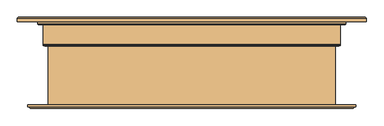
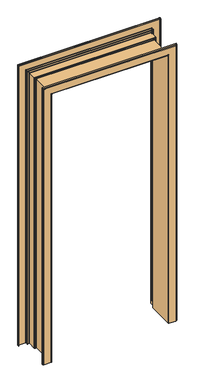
"""IFC4 building model written with IfcOpenShell, lengths in millimetres: door geometry."""

from ifc_helpers import new_model, si_unit, frame, origin, place, context, project, spatial, polyline, circle_curve, ellipse_curve, source, transform, mapped, element, save
from ifc_brep_helpers import plane_surface, cylinder_surface, revolved_surface, advanced_brep


def door_1babe00d(model_context):
    return source(origin(), model_context, "Body", "AdvancedBrep", [
        advanced_brep(
        [(-500.8, 136.0, 0.0), (-502.0, 134.8, 0.0), (-502.0, 125.0, 0.0), (-504.0, 125.0, 0.0), (-504.0, 134.8, 0.0), (-500.8, 138.0, 0.0), (-447.2, 138.0, 0.0), (-444.0, 134.8, 0.0), (-444.0, 120.2, 0.0), (-442.8, 119.0, 0.0), (-431.2, 119.0, 0.0), (-428.0, 115.8, 0.0), (-428.0, 58.5435371, 0.0), (-427.230303, 57.5704182, 0.0), (-421.4901646, 57.1837299, 0.0), (-418.7138764, 58.5145653, 0.0), (-418.4, 59.2839869, 0.0), (-418.4, 65.990098, 0.0), (-417.5333333, 68.1996732, 0.0), (-413.8666667, 68.1996732, 0.0), (-413.0, 65.990098, 0.0), (-413.0, -121.8, 0.0), (-416.2, -125.0, 0.0), (-465.8, -125.0, 0.0), (-469.0, -121.8, 0.0), (-469.0, -115.0, 0.0), (-467.0, -115.0, 0.0), (-467.0, -121.8, 0.0), (-465.8, -123.0, 0.0), (-416.2, -123.0, 0.0), (-415.0, -121.8, 0.0), (-415.0, 65.990098, 0.0), (-415.3333333, 66.8399346, 0.0), (-416.0666667, 66.8399346, 0.0), (-416.4, 65.990098, 0.0), (-416.4, 59.2435371, 0.0), (-417.2315687, 57.170398, 0.0), (-421.2947548, 55.1932991, 0.0), (-427.6909091, 55.6241802, 0.0), (-430.0, 58.5435371, 0.0), (-430.0, 115.8, 0.0), (-431.2, 117.0, 0.0), (-442.8, 117.0, 0.0), (-446.0, 120.2, 0.0), (-446.0, 134.8, 0.0), (-447.2, 136.0, 0.0), (-500.8, 136.0, 2087.8), (-502.0, 134.8, 2089.0), (-502.0, 125.0, 2089.0), (502.0, 125.0, 2089.0), (502.0, 125.0, 0.0), (504.0, 125.0, 0.0), (504.0, 125.0, 2091.0), (-504.0, 125.0, 2091.0), (-504.0, 134.8, 2091.0), (-500.8, 138.0, 2087.8), (500.8, 138.0, 2087.8), (500.8, 138.0, 0.0), (447.2, 138.0, 0.0), (447.2, 138.0, 2034.2), (-447.2, 138.0, 2034.2), (-444.0, 134.8, 2031.0), (-444.0, 120.2, 2031.0), (-442.8, 119.0, 2029.8), (442.8, 119.0, 2029.8), (442.8, 119.0, 0.0), (431.2, 119.0, 0.0), (431.2, 119.0, 2018.2), (-431.2, 119.0, 2018.2), (-428.0, 115.8, 2015.0), (-428.0, 58.5435371, 2015.0), (-427.230303, 57.5704182, 2014.230303), (-421.4901646, 57.1837299, 2008.4901646), (-418.7138764, 58.5145653, 2005.7138764), (-418.4, 59.2839869, 2005.4), (-418.4, 65.990098, 2005.4), (-417.5333333, 68.1996732, 2004.5333333), (-413.8666667, 68.1996732, 2000.8666667), (-413.0, 65.990098, 2000.0), (-413.0, -121.8, 2000.0), (-416.2, -125.0, 2003.2), (416.2, -125.0, 2003.2), (416.2, -125.0, 0.0), (465.8, -125.0, 0.0), (465.8, -125.0, 2052.8), (-465.8, -125.0, 2052.8), (-469.0, -121.8, 2056.0), (-469.0, -115.0, 2056.0), (469.0, -115.0, 2056.0), (469.0, -115.0, 0.0), (467.0, -115.0, 0.0), (467.0, -115.0, 2054.0), (-467.0, -115.0, 2054.0), (-467.0, -121.8, 2054.0), (-465.8, -123.0, 2052.8), (465.8, -123.0, 2052.8), (465.8, -123.0, 0.0), (416.2, -123.0, 0.0), (416.2, -123.0, 2003.2), (-416.2, -123.0, 2003.2), (-415.0, -121.8, 2002.0), (-415.0, 65.990098, 2002.0), (-415.3333333, 66.8399346, 2002.3333333), (-416.0666667, 66.8399346, 2003.0666667), (-416.4, 65.990098, 2003.4), (-416.4, 59.2435371, 2003.4), (-417.2315687, 57.170398, 2004.2315687), (-421.2947548, 55.1932991, 2008.2947548), (-427.6909091, 55.6241802, 2014.6909091), (-430.0, 58.5435371, 2017.0), (-430.0, 115.8, 2017.0), (-431.2, 117.0, 2018.2), (431.2, 117.0, 2018.2), (431.2, 117.0, 0.0), (442.8, 117.0, 0.0), (442.8, 117.0, 2029.8), (-442.8, 117.0, 2029.8), (-446.0, 120.2, 2033.0), (-446.0, 134.8, 2033.0), (-447.2, 136.0, 2034.2), (447.2, 136.0, 2034.2), (447.2, 136.0, 0.0), (500.8, 136.0, 0.0), (500.8, 136.0, 2087.8), (504.0, 134.8, 2091.0), (504.0, 134.8, 0.0), (446.0, 134.8, 0.0), (446.0, 120.2, 0.0), (430.0, 115.8, 0.0), (430.0, 58.5435371, 0.0), (427.6909091, 55.6241802, 0.0), (421.2947548, 55.1932991, 0.0), (417.2315687, 57.170398, 0.0), (416.4, 59.2435371, 0.0), (416.4, 65.990098, 0.0), (416.0666667, 66.8399346, 0.0), (415.3333333, 66.8399346, 0.0), (415.0, 65.990098, 0.0), (415.0, -121.8, 0.0), (467.0, -121.8, 0.0), (469.0, -121.8, 0.0), (413.0, -121.8, 0.0), (413.0, 65.990098, 0.0), (413.8666667, 68.1996732, 0.0), (417.5333333, 68.1996732, 0.0), (418.4, 65.990098, 0.0), (418.4, 59.2839869, 0.0), (418.7138764, 58.5145653, 0.0), (421.4901646, 57.1837299, 0.0), (427.230303, 57.5704182, 0.0), (428.0, 58.5435371, 0.0), (428.0, 115.8, 0.0), (444.0, 120.2, 0.0), (444.0, 134.8, 0.0), (502.0, 134.8, 0.0), (444.0, 134.8, 2031.0), (446.0, 134.8, 2033.0), (502.0, 134.8, 2089.0), (413.0, -121.8, 2000.0), (469.0, -121.8, 2056.0), (467.0, -121.8, 2054.0), (444.0, 120.2, 2031.0), (428.0, 115.8, 2015.0), (430.0, 115.8, 2017.0), (446.0, 120.2, 2033.0), (415.0, -121.8, 2002.0), (430.0, 58.5435371, 2017.0), (427.6909091, 55.6241802, 2014.6909091), (421.2947548, 55.1932991, 2008.2947548), (417.2315687, 57.170398, 2004.2315687), (416.4, 59.2435371, 2003.4), (416.4, 65.990098, 2003.4), (416.0666667, 66.8399346, 2003.0666667), (415.3333333, 66.8399346, 2002.3333333), (415.0, 65.990098, 2002.0), (413.0, 65.990098, 2000.0), (413.8666667, 68.1996732, 2000.8666667), (417.5333333, 68.1996732, 2004.5333333), (418.4, 65.990098, 2005.4), (418.4, 59.2839869, 2005.4), (418.7138764, 58.5145653, 2005.7138764), (421.4901646, 57.1837299, 2008.4901646), (427.230303, 57.5704182, 2014.230303), (428.0, 58.5435371, 2015.0)],
        [
            (0, 1, circle_curve(frame((-500.8, 134.8, 0.0), z_axis=(0.0, 0.0, 1.0), x_axis=(-1.0, 0.0, 0.0)), 1.2)),
            (1, 2),
            (2, 3),
            (3, 4),
            (4, 5, circle_curve(frame((-500.8, 134.8, 0.0), z_axis=(0.0, 0.0, -1.0), x_axis=(-1.0, 0.0, 0.0)), 3.2)),
            (5, 6),
            (6, 7, circle_curve(frame((-447.2, 134.8, 0.0), z_axis=(0.0, 0.0, -1.0), x_axis=(-1.0, 0.0, 0.0)), 3.2)),
            (7, 8),
            (8, 9, circle_curve(frame((-442.8, 120.2, 0.0), z_axis=(0.0, 0.0, 1.0), x_axis=(-1.0, 0.0, 0.0)), 1.2)),
            (9, 10),
            (10, 11, circle_curve(frame((-431.2, 115.8, 0.0), z_axis=(0.0, 0.0, -1.0), x_axis=(-1.0, 0.0, 0.0)), 3.2)),
            (11, 12),
            (12, 13, circle_curve(frame((-427.0, 58.5435371, 0.0), z_axis=(0.0, 0.0, 1.0), x_axis=(-1.0, 0.0, 0.0)), 1.0)),
            (13, 14, circle_curve(frame((-423.2, 74.6, 0.0), z_axis=(0.0, 0.0, 1.0), x_axis=(-1.0, 0.0, 0.0)), 17.5)),
            (14, 15, circle_curve(frame((-421.9298365, 61.6621994, 0.0), z_axis=(0.0, 0.0, 1.0), x_axis=(-1.0, 0.0, 0.0)), 4.5)),
            (15, 16, circle_curve(frame((-419.5, 59.2839869, 0.0), z_axis=(0.0, 0.0, 1.0), x_axis=(-1.0, 0.0, 0.0)), 1.1)),
            (16, 17),
            (17, 18, circle_curve(frame((-415.15, 65.990098, 0.0), z_axis=(0.0, 0.0, -1.0), x_axis=(-1.0, 0.0, 0.0)), 3.25)),
            (18, 19, circle_curve(frame((-415.7, 66.5, 0.0), z_axis=(0.0, 0.0, -1.0), x_axis=(-1.0, 0.0, 0.0)), 2.5)),
            (19, 20, circle_curve(frame((-416.25, 65.990098, 0.0), z_axis=(0.0, 0.0, -1.0), x_axis=(-1.0, 0.0, 0.0)), 3.25)),
            (20, 21),
            (21, 22, circle_curve(frame((-416.2, -121.8, 0.0), z_axis=(0.0, 0.0, -1.0), x_axis=(-1.0, 0.0, 0.0)), 3.2)),
            (22, 23),
            (23, 24, circle_curve(frame((-465.8, -121.8, 0.0), z_axis=(0.0, 0.0, -1.0), x_axis=(-1.0, 0.0, 0.0)), 3.2)),
            (24, 25),
            (25, 26),
            (26, 27),
            (27, 28, circle_curve(frame((-465.8, -121.8, 0.0), z_axis=(0.0, 0.0, 1.0), x_axis=(-1.0, 0.0, 0.0)), 1.2)),
            (28, 29),
            (29, 30, circle_curve(frame((-416.2, -121.8, 0.0), z_axis=(0.0, 0.0, 1.0), x_axis=(-1.0, 0.0, 0.0)), 1.2)),
            (30, 31),
            (31, 32, circle_curve(frame((-416.25, 65.990098, 0.0), z_axis=(0.0, 0.0, 1.0), x_axis=(-1.0, 0.0, 0.0)), 1.25)),
            (32, 33, circle_curve(frame((-415.7, 66.5, 0.0), z_axis=(0.0, 0.0, 1.0), x_axis=(-1.0, 0.0, 0.0)), 0.5)),
            (33, 34, circle_curve(frame((-415.15, 65.990098, 0.0), z_axis=(0.0, 0.0, 1.0), x_axis=(-1.0, 0.0, 0.0)), 1.25)),
            (34, 35),
            (35, 36, circle_curve(frame((-419.4, 59.2435371, 0.0), z_axis=(0.0, 0.0, -1.0), x_axis=(-1.0, 0.0, 0.0)), 3.0)),
            (36, 37, circle_curve(frame((-421.9298365, 61.6621994, 0.0), z_axis=(0.0, 0.0, -1.0), x_axis=(-1.0, 0.0, 0.0)), 6.5)),
            (37, 38, circle_curve(frame((-423.2, 74.6, 0.0), z_axis=(0.0, 0.0, -1.0), x_axis=(-1.0, 0.0, 0.0)), 19.5)),
            (38, 39, circle_curve(frame((-427.0, 58.5435371, 0.0), z_axis=(0.0, 0.0, -1.0), x_axis=(-1.0, 0.0, 0.0)), 3.0)),
            (39, 40),
            (40, 41, circle_curve(frame((-431.2, 115.8, 0.0), z_axis=(0.0, 0.0, 1.0), x_axis=(-1.0, 0.0, 0.0)), 1.2)),
            (41, 42),
            (42, 43, circle_curve(frame((-442.8, 120.2, 0.0), z_axis=(0.0, 0.0, -1.0), x_axis=(-1.0, 0.0, 0.0)), 3.2)),
            (43, 44),
            (44, 45, circle_curve(frame((-447.2, 134.8, 0.0), z_axis=(0.0, 0.0, 1.0), x_axis=(-1.0, 0.0, 0.0)), 1.2)),
            (45, 0),
            (0, 46),
            (46, 47, ellipse_curve(frame((-500.8, 134.8, 2087.8), z_axis=(0.7071067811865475, 0.0, 0.7071067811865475), x_axis=(-0.7071067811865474, 0.0, 0.7071067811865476)), 1.6970563, 1.2)),
            (47, 1),
            (47, 48),
            (48, 2),
            (48, 49),
            (49, 50),
            (50, 51),
            (51, 52),
            (52, 53),
            (53, 3),
            (53, 54),
            (54, 4),
            (54, 55, ellipse_curve(frame((-500.8, 134.8, 2087.8), z_axis=(-0.7071067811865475, 0.0, -0.7071067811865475), x_axis=(0.7071067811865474, 0.0, -0.7071067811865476)), 4.5254834, 3.2)),
            (55, 5),
            (55, 56),
            (56, 57),
            (57, 58),
            (58, 59),
            (59, 60),
            (60, 6),
            (60, 61, ellipse_curve(frame((-447.2, 134.8, 2034.2), z_axis=(-0.7071067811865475, 0.0, -0.7071067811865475), x_axis=(0.7071067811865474, 0.0, -0.7071067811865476)), 4.5254834, 3.2)),
            (61, 7),
            (61, 62),
            (62, 8),
            (62, 63, ellipse_curve(frame((-442.8, 120.2, 2029.8), z_axis=(0.7071067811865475, 0.0, 0.7071067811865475), x_axis=(-0.7071067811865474, 0.0, 0.7071067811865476)), 1.6970563, 1.2)),
            (63, 9),
            (63, 64),
            (64, 65),
            (65, 66),
            (66, 67),
            (67, 68),
            (68, 10),
            (68, 69, ellipse_curve(frame((-431.2, 115.8, 2018.2), z_axis=(-0.7071067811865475, 0.0, -0.7071067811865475), x_axis=(0.7071067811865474, 0.0, -0.7071067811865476)), 4.5254834, 3.2)),
            (69, 11),
            (69, 70),
            (70, 12),
            (70, 71, ellipse_curve(frame((-427.0, 58.5435371, 2014.0), z_axis=(0.7071067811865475, 0.0, 0.7071067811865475), x_axis=(-0.7071067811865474, 0.0, 0.7071067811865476)), 1.4142136, 1.0)),
            (71, 13),
            (71, 72, ellipse_curve(frame((-423.2, 74.6, 2010.2), z_axis=(0.7071067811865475, 0.0, 0.7071067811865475), x_axis=(-0.7071067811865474, 0.0, 0.7071067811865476)), 24.7487373, 17.5)),
            (72, 14),
            (72, 73, ellipse_curve(frame((-421.9298365, 61.6621994, 2008.9298365), z_axis=(0.7071067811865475, 0.0, 0.7071067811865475), x_axis=(-0.7071067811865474, 0.0, 0.7071067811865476)), 6.363961, 4.5)),
            (73, 15),
            (73, 74, ellipse_curve(frame((-419.5, 59.2839869, 2006.5), z_axis=(0.7071067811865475, 0.0, 0.7071067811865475), x_axis=(-0.7071067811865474, 0.0, 0.7071067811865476)), 1.5556349, 1.1)),
            (74, 16),
            (74, 75),
            (75, 17),
            (75, 76, ellipse_curve(frame((-415.15, 65.990098, 2002.15), z_axis=(-0.7071067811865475, 0.0, -0.7071067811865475), x_axis=(0.7071067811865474, 0.0, -0.7071067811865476)), 4.5961941, 3.25)),
            (76, 18),
            (76, 77, ellipse_curve(frame((-415.7, 66.5, 2002.7), z_axis=(-0.7071067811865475, 0.0, -0.7071067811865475), x_axis=(0.7071067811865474, 0.0, -0.7071067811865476)), 3.5355339, 2.5)),
            (77, 19),
            (77, 78, ellipse_curve(frame((-416.25, 65.990098, 2003.25), z_axis=(-0.7071067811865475, 0.0, -0.7071067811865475), x_axis=(0.7071067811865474, 0.0, -0.7071067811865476)), 4.5961941, 3.25)),
            (78, 20),
            (78, 79),
            (79, 21),
            (79, 80, ellipse_curve(frame((-416.2, -121.8, 2003.2), z_axis=(-0.7071067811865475, 0.0, -0.7071067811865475), x_axis=(0.7071067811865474, 0.0, -0.7071067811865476)), 4.5254834, 3.2)),
            (80, 22),
            (80, 81),
            (81, 82),
            (82, 83),
            (83, 84),
            (84, 85),
            (85, 23),
            (85, 86, ellipse_curve(frame((-465.8, -121.8, 2052.8), z_axis=(-0.7071067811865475, 0.0, -0.7071067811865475), x_axis=(0.7071067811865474, 0.0, -0.7071067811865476)), 4.5254834, 3.2)),
            (86, 24),
            (86, 87),
            (87, 25),
            (87, 88),
            (88, 89),
            (89, 90),
            (90, 91),
            (91, 92),
            (92, 26),
            (92, 93),
            (93, 27),
            (93, 94, ellipse_curve(frame((-465.8, -121.8, 2052.8), z_axis=(0.7071067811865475, 0.0, 0.7071067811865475), x_axis=(-0.7071067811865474, 0.0, 0.7071067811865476)), 1.6970563, 1.2)),
            (94, 28),
            (94, 95),
            (95, 96),
            (96, 97),
            (97, 98),
            (98, 99),
            (99, 29),
            (99, 100, ellipse_curve(frame((-416.2, -121.8, 2003.2), z_axis=(0.7071067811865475, 0.0, 0.7071067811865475), x_axis=(-0.7071067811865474, 0.0, 0.7071067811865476)), 1.6970563, 1.2)),
            (100, 30),
            (100, 101),
            (101, 31),
            (101, 102, ellipse_curve(frame((-416.25, 65.990098, 2003.25), z_axis=(0.7071067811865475, 0.0, 0.7071067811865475), x_axis=(-0.7071067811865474, 0.0, 0.7071067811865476)), 1.767767, 1.25)),
            (102, 32),
            (102, 103, ellipse_curve(frame((-415.7, 66.5, 2002.7), z_axis=(0.7071067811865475, 0.0, 0.7071067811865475), x_axis=(-0.7071067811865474, 0.0, 0.7071067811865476)), 0.7071068, 0.5)),
            (103, 33),
            (103, 104, ellipse_curve(frame((-415.15, 65.990098, 2002.15), z_axis=(0.7071067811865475, 0.0, 0.7071067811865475), x_axis=(-0.7071067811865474, 0.0, 0.7071067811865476)), 1.767767, 1.25)),
            (104, 34),
            (104, 105),
            (105, 35),
            (105, 106, ellipse_curve(frame((-419.4, 59.2435371, 2006.4), z_axis=(-0.7071067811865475, 0.0, -0.7071067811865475), x_axis=(0.7071067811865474, 0.0, -0.7071067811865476)), 4.2426407, 3.0)),
            (106, 36),
            (106, 107, ellipse_curve(frame((-421.9298365, 61.6621994, 2008.9298365), z_axis=(-0.7071067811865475, 0.0, -0.7071067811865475), x_axis=(0.7071067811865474, 0.0, -0.7071067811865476)), 9.1923882, 6.5)),
            (107, 37),
            (107, 108, ellipse_curve(frame((-423.2, 74.6, 2010.2), z_axis=(-0.7071067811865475, 0.0, -0.7071067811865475), x_axis=(0.7071067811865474, 0.0, -0.7071067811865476)), 27.5771645, 19.5)),
            (108, 38),
            (108, 109, ellipse_curve(frame((-427.0, 58.5435371, 2014.0), z_axis=(-0.7071067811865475, 0.0, -0.7071067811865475), x_axis=(0.7071067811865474, 0.0, -0.7071067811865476)), 4.2426407, 3.0)),
            (109, 39),
            (109, 110),
            (110, 40),
            (110, 111, ellipse_curve(frame((-431.2, 115.8, 2018.2), z_axis=(0.7071067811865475, 0.0, 0.7071067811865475), x_axis=(-0.7071067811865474, 0.0, 0.7071067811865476)), 1.6970563, 1.2)),
            (111, 41),
            (111, 112),
            (112, 113),
            (113, 114),
            (114, 115),
            (115, 116),
            (116, 42),
            (116, 117, ellipse_curve(frame((-442.8, 120.2, 2029.8), z_axis=(-0.7071067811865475, 0.0, -0.7071067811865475), x_axis=(0.7071067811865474, 0.0, -0.7071067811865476)), 4.5254834, 3.2)),
            (117, 43),
            (117, 118),
            (118, 44),
            (118, 119, ellipse_curve(frame((-447.2, 134.8, 2034.2), z_axis=(0.7071067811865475, 0.0, 0.7071067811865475), x_axis=(-0.7071067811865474, 0.0, 0.7071067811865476)), 1.6970563, 1.2)),
            (119, 45),
            (119, 120),
            (120, 121),
            (121, 122),
            (122, 123),
            (123, 46),
            (56, 124, ellipse_curve(frame((500.8, 134.8, 2087.8), z_axis=(0.7071067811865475, 0.0, -0.7071067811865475), x_axis=(0.7071067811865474, 0.0, 0.7071067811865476)), 4.5254834, 3.2)),
            (124, 125),
            (125, 57, circle_curve(frame((500.8, 134.8, 0.0), z_axis=(0.0, 0.0, 1.0), x_axis=(1.0, 0.0, 0.0)), 3.2)),
            (121, 126, circle_curve(frame((447.2, 134.8, 0.0), z_axis=(0.0, 0.0, 1.0), x_axis=(1.0, 0.0, 0.0)), 1.2)),
            (126, 127),
            (127, 114, circle_curve(frame((442.8, 120.2, 0.0), z_axis=(0.0, 0.0, -1.0), x_axis=(1.0, 0.0, 0.0)), 3.2)),
            (113, 128, circle_curve(frame((431.2, 115.8, 0.0), z_axis=(0.0, 0.0, 1.0), x_axis=(1.0, 0.0, 0.0)), 1.2)),
            (128, 129),
            (129, 130, circle_curve(frame((427.0, 58.5435371, 0.0), z_axis=(0.0, 0.0, -1.0), x_axis=(1.0, 0.0, 0.0)), 3.0)),
            (130, 131, circle_curve(frame((423.2, 74.6, 0.0), z_axis=(0.0, 0.0, -1.0), x_axis=(1.0, 0.0, 0.0)), 19.5)),
            (131, 132, circle_curve(frame((421.9298365, 61.6621994, 0.0), z_axis=(0.0, 0.0, -1.0), x_axis=(1.0, 0.0, 0.0)), 6.5)),
            (132, 133, circle_curve(frame((419.4, 59.2435371, 0.0), z_axis=(0.0, 0.0, -1.0), x_axis=(1.0, 0.0, 0.0)), 3.0)),
            (133, 134),
            (134, 135, circle_curve(frame((415.15, 65.990098, 0.0), z_axis=(0.0, 0.0, 1.0), x_axis=(1.0, 0.0, 0.0)), 1.25)),
            (135, 136, circle_curve(frame((415.7, 66.5, 0.0), z_axis=(0.0, 0.0, 1.0), x_axis=(1.0, 0.0, 0.0)), 0.5)),
            (136, 137, circle_curve(frame((416.25, 65.990098, 0.0), z_axis=(0.0, 0.0, 1.0), x_axis=(1.0, 0.0, 0.0)), 1.25)),
            (137, 138),
            (138, 97, circle_curve(frame((416.2, -121.8, 0.0), z_axis=(0.0, 0.0, 1.0), x_axis=(1.0, 0.0, 0.0)), 1.2)),
            (96, 139, circle_curve(frame((465.8, -121.8, 0.0), z_axis=(0.0, 0.0, 1.0), x_axis=(1.0, 0.0, 0.0)), 1.2)),
            (139, 90),
            (89, 140),
            (140, 83, circle_curve(frame((465.8, -121.8, 0.0), z_axis=(0.0, 0.0, -1.0), x_axis=(1.0, 0.0, 0.0)), 3.2)),
            (82, 141, circle_curve(frame((416.2, -121.8, 0.0), z_axis=(0.0, 0.0, -1.0), x_axis=(1.0, 0.0, 0.0)), 3.2)),
            (141, 142),
            (142, 143, circle_curve(frame((416.25, 65.990098, 0.0), z_axis=(0.0, 0.0, -1.0), x_axis=(1.0, 0.0, 0.0)), 3.25)),
            (143, 144, circle_curve(frame((415.7, 66.5, 0.0), z_axis=(0.0, 0.0, -1.0), x_axis=(1.0, 0.0, 0.0)), 2.5)),
            (144, 145, circle_curve(frame((415.15, 65.990098, 0.0), z_axis=(0.0, 0.0, -1.0), x_axis=(1.0, 0.0, 0.0)), 3.25)),
            (145, 146),
            (146, 147, circle_curve(frame((419.5, 59.2839869, 0.0), z_axis=(0.0, 0.0, 1.0), x_axis=(1.0, 0.0, 0.0)), 1.1)),
            (147, 148, circle_curve(frame((421.9298365, 61.6621994, 0.0), z_axis=(0.0, 0.0, 1.0), x_axis=(1.0, 0.0, 0.0)), 4.5)),
            (148, 149, circle_curve(frame((423.2, 74.6, 0.0), z_axis=(0.0, 0.0, 1.0), x_axis=(1.0, 0.0, 0.0)), 17.5)),
            (149, 150, circle_curve(frame((427.0, 58.5435371, 0.0), z_axis=(0.0, 0.0, 1.0), x_axis=(1.0, 0.0, 0.0)), 1.0)),
            (150, 151),
            (151, 66, circle_curve(frame((431.2, 115.8, 0.0), z_axis=(0.0, 0.0, -1.0), x_axis=(1.0, 0.0, 0.0)), 3.2)),
            (65, 152, circle_curve(frame((442.8, 120.2, 0.0), z_axis=(0.0, 0.0, 1.0), x_axis=(1.0, 0.0, 0.0)), 1.2)),
            (152, 153),
            (153, 58, circle_curve(frame((447.2, 134.8, 0.0), z_axis=(0.0, 0.0, -1.0), x_axis=(1.0, 0.0, 0.0)), 3.2)),
            (125, 51),
            (50, 154),
            (154, 122, circle_curve(frame((500.8, 134.8, 0.0), z_axis=(0.0, 0.0, 1.0), x_axis=(1.0, 0.0, 0.0)), 1.2)),
            (155, 59, ellipse_curve(frame((447.2, 134.8, 2034.2), z_axis=(0.7071067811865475, 0.0, -0.7071067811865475), x_axis=(0.7071067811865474, 0.0, 0.7071067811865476)), 4.5254834, 3.2)),
            (153, 155),
            (120, 156, ellipse_curve(frame((447.2, 134.8, 2034.2), z_axis=(-0.7071067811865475, 0.0, 0.7071067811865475), x_axis=(-0.7071067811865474, 0.0, -0.7071067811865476)), 1.6970563, 1.2)),
            (156, 126),
            (157, 123, ellipse_curve(frame((500.8, 134.8, 2087.8), z_axis=(-0.7071067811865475, 0.0, 0.7071067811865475), x_axis=(-0.7071067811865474, 0.0, -0.7071067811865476)), 1.6970563, 1.2)),
            (154, 157),
            (81, 158, ellipse_curve(frame((416.2, -121.8, 2003.2), z_axis=(0.7071067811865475, 0.0, -0.7071067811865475), x_axis=(0.7071067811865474, 0.0, 0.7071067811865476)), 4.5254834, 3.2)),
            (158, 141),
            (159, 84, ellipse_curve(frame((465.8, -121.8, 2052.8), z_axis=(0.7071067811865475, 0.0, -0.7071067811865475), x_axis=(0.7071067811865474, 0.0, 0.7071067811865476)), 4.5254834, 3.2)),
            (140, 159),
            (88, 159),
            (160, 91),
            (139, 160),
            (64, 161, ellipse_curve(frame((442.8, 120.2, 2029.8), z_axis=(-0.7071067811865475, 0.0, 0.7071067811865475), x_axis=(-0.7071067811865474, 0.0, -0.7071067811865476)), 1.6970563, 1.2)),
            (161, 152),
            (162, 67, ellipse_curve(frame((431.2, 115.8, 2018.2), z_axis=(0.7071067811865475, 0.0, -0.7071067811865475), x_axis=(0.7071067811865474, 0.0, 0.7071067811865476)), 4.5254834, 3.2)),
            (151, 162),
            (112, 163, ellipse_curve(frame((431.2, 115.8, 2018.2), z_axis=(-0.7071067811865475, 0.0, 0.7071067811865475), x_axis=(-0.7071067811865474, 0.0, -0.7071067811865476)), 1.6970563, 1.2)),
            (163, 128),
            (164, 115, ellipse_curve(frame((442.8, 120.2, 2029.8), z_axis=(0.7071067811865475, 0.0, -0.7071067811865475), x_axis=(0.7071067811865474, 0.0, 0.7071067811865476)), 4.5254834, 3.2)),
            (127, 164),
            (49, 157),
            (124, 52),
            (95, 160, ellipse_curve(frame((465.8, -121.8, 2052.8), z_axis=(-0.7071067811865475, 0.0, 0.7071067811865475), x_axis=(-0.7071067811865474, 0.0, -0.7071067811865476)), 1.6970563, 1.2)),
            (165, 98, ellipse_curve(frame((416.2, -121.8, 2003.2), z_axis=(-0.7071067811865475, 0.0, 0.7071067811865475), x_axis=(-0.7071067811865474, 0.0, -0.7071067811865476)), 1.6970563, 1.2)),
            (138, 165),
            (156, 164),
            (163, 166),
            (166, 129),
            (166, 167, ellipse_curve(frame((427.0, 58.5435371, 2014.0), z_axis=(0.7071067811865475, 0.0, -0.7071067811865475), x_axis=(0.7071067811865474, 0.0, 0.7071067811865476)), 4.2426407, 3.0)),
            (167, 130),
            (167, 168, ellipse_curve(frame((423.2, 74.6, 2010.2), z_axis=(0.7071067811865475, 0.0, -0.7071067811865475), x_axis=(0.7071067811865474, 0.0, 0.7071067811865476)), 27.5771645, 19.5)),
            (168, 131),
            (168, 169, ellipse_curve(frame((421.9298365, 61.6621994, 2008.9298365), z_axis=(0.7071067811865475, 0.0, -0.7071067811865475), x_axis=(0.7071067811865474, 0.0, 0.7071067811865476)), 9.1923882, 6.5)),
            (169, 132),
            (169, 170, ellipse_curve(frame((419.4, 59.2435371, 2006.4), z_axis=(0.7071067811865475, 0.0, -0.7071067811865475), x_axis=(0.7071067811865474, 0.0, 0.7071067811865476)), 4.2426407, 3.0)),
            (170, 133),
            (170, 171),
            (171, 134),
            (171, 172, ellipse_curve(frame((415.15, 65.990098, 2002.15), z_axis=(-0.7071067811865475, 0.0, 0.7071067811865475), x_axis=(-0.7071067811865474, 0.0, -0.7071067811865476)), 1.767767, 1.25)),
            (172, 135),
            (172, 173, ellipse_curve(frame((415.7, 66.5, 2002.7), z_axis=(-0.7071067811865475, 0.0, 0.7071067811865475), x_axis=(-0.7071067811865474, 0.0, -0.7071067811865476)), 0.7071068, 0.5)),
            (173, 136),
            (173, 174, ellipse_curve(frame((416.25, 65.990098, 2003.25), z_axis=(-0.7071067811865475, 0.0, 0.7071067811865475), x_axis=(-0.7071067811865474, 0.0, -0.7071067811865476)), 1.767767, 1.25)),
            (174, 137),
            (174, 165),
            (158, 175),
            (175, 142),
            (175, 176, ellipse_curve(frame((416.25, 65.990098, 2003.25), z_axis=(0.7071067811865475, 0.0, -0.7071067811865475), x_axis=(0.7071067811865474, 0.0, 0.7071067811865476)), 4.5961941, 3.25)),
            (176, 143),
            (176, 177, ellipse_curve(frame((415.7, 66.5, 2002.7), z_axis=(0.7071067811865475, 0.0, -0.7071067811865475), x_axis=(0.7071067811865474, 0.0, 0.7071067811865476)), 3.5355339, 2.5)),
            (177, 144),
            (177, 178, ellipse_curve(frame((415.15, 65.990098, 2002.15), z_axis=(0.7071067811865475, 0.0, -0.7071067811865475), x_axis=(0.7071067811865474, 0.0, 0.7071067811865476)), 4.5961941, 3.25)),
            (178, 145),
            (178, 179),
            (179, 146),
            (179, 180, ellipse_curve(frame((419.5, 59.2839869, 2006.5), z_axis=(-0.7071067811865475, 0.0, 0.7071067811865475), x_axis=(-0.7071067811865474, 0.0, -0.7071067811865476)), 1.5556349, 1.1)),
            (180, 147),
            (180, 181, ellipse_curve(frame((421.9298365, 61.6621994, 2008.9298365), z_axis=(-0.7071067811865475, 0.0, 0.7071067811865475), x_axis=(-0.7071067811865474, 0.0, -0.7071067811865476)), 6.363961, 4.5)),
            (181, 148),
            (181, 182, ellipse_curve(frame((423.2, 74.6, 2010.2), z_axis=(-0.7071067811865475, 0.0, 0.7071067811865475), x_axis=(-0.7071067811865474, 0.0, -0.7071067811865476)), 24.7487373, 17.5)),
            (182, 149),
            (182, 183, ellipse_curve(frame((427.0, 58.5435371, 2014.0), z_axis=(-0.7071067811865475, 0.0, 0.7071067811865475), x_axis=(-0.7071067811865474, 0.0, -0.7071067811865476)), 1.4142136, 1.0)),
            (183, 150),
            (183, 162),
            (161, 155),
            (157, 47),
            (124, 54),
            (159, 86),
            (162, 69),
            (79, 158),
            (74, 179),
            (178, 75),
            (71, 182),
            (181, 72),
            (70, 183),
            (108, 167),
            (166, 109),
            (107, 168),
            (106, 169),
            (105, 170),
            (103, 172),
            (171, 104),
            (163, 110),
            (102, 173),
            (100, 165),
            (174, 101),
            (118, 156),
            (117, 164),
            (61, 155),
            (161, 62),
            (78, 175),
            (77, 176),
            (76, 177),
            (73, 180),
            (160, 93),
        ],
        [
            plane_surface(frame((-474.0, 125.0, 0.0), z_axis=(0.0, 0.0, -1.0), x_axis=(0.0, 1.0, 0.0))),
            revolved_surface(polyline([(-502.0, 134.8, 2089.0000000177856), (-502.0, 134.8, 0.0)]), (-500.8, 134.8, 0.0), (0.0, 0.0, 1.0)),
            plane_surface(frame((-502.0, 134.8, 0.0), z_axis=(1.0, 0.0, 0.0), x_axis=(0.0, 0.0, 1.0))),
            plane_surface(frame((-502.0, 125.0, 0.0), z_axis=(0.0, -1.0, 0.0), x_axis=(0.0, 0.0, 1.0))),
            plane_surface(frame((-504.0, 125.0, 0.0), z_axis=(-1.0, 0.0, 0.0), x_axis=(0.0, 0.0, 1.0))),
            cylinder_surface(frame((-500.8, 134.8, 0.0), z_axis=(0.0, 0.0, -1.0), x_axis=(-1.0, 0.0, 0.0)), 3.2),
            plane_surface(frame((-500.8, 138.0, 0.0), z_axis=(0.0, 1.0, 0.0), x_axis=(0.0, 0.0, 1.0))),
            cylinder_surface(frame((-447.2, 134.8, 0.0), z_axis=(0.0, 0.0, -1.0), x_axis=(-1.0, 0.0, 0.0)), 3.2),
            plane_surface(frame((-444.0, 134.8, 0.0), z_axis=(1.0, 0.0, 0.0), x_axis=(0.0, 0.0, 1.0))),
            revolved_surface(polyline([(-444.0, 120.2, 2031.0000000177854), (-444.0, 120.2, 0.0)]), (-442.8, 120.2, 0.0), (0.0, 0.0, 1.0)),
            plane_surface(frame((-442.8, 119.0, 0.0), z_axis=(0.0, 1.0, 0.0), x_axis=(0.0, 0.0, 1.0))),
            cylinder_surface(frame((-431.2, 115.8, 0.0), z_axis=(0.0, 0.0, -1.0), x_axis=(-1.0, 0.0, 0.0)), 3.2),
            plane_surface(frame((-428.0, 115.8, 0.0), z_axis=(1.0, 0.0, 0.0), x_axis=(0.0, 0.0, 1.0))),
            revolved_surface(polyline([(-428.0, 58.5435371, 2015.0000000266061), (-428.0, 58.5435371, 0.0)]), (-427.0, 58.5435371, 0.0), (0.0, 0.0, 1.0)),
            revolved_surface(polyline([(-440.7, 74.6, 2027.6999999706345), (-440.7, 74.6, 0.0)]), (-423.2, 74.6, 0.0), (0.0, 0.0, 1.0)),
            revolved_surface(polyline([(-426.4298365, 61.6621994, 2013.4298364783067), (-426.4298365, 61.6621994, 0.0)]), (-421.9298365, 61.6621994, 0.0), (0.0, 0.0, 1.0)),
            revolved_surface(polyline([(-420.6, 59.2839869, 2007.5999999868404), (-420.6, 59.2839869, 0.0)]), (-419.5, 59.2839869, 0.0), (0.0, 0.0, 1.0)),
            plane_surface(frame((-418.4, 59.2839869, 0.0), z_axis=(-1.0, 0.0, 0.0), x_axis=(0.0, 0.0, 1.0))),
            cylinder_surface(frame((-415.15, 65.990098, 0.0), z_axis=(0.0, 0.0, -1.0), x_axis=(-1.0, 0.0, 0.0)), 3.25),
            cylinder_surface(frame((-415.7, 66.5, 0.0), z_axis=(0.0, 0.0, -1.0), x_axis=(-1.0, 0.0, 0.0)), 2.5),
            cylinder_surface(frame((-416.25, 65.990098, 0.0), z_axis=(0.0, 0.0, -1.0), x_axis=(-1.0, 0.0, 0.0)), 3.25),
            plane_surface(frame((-413.0, 65.990098, 0.0), z_axis=(1.0, 0.0, 0.0), x_axis=(0.0, 0.0, 1.0))),
            cylinder_surface(frame((-416.2, -121.8, 0.0), z_axis=(0.0, 0.0, -1.0), x_axis=(-1.0, 0.0, 0.0)), 3.2),
            plane_surface(frame((-416.2, -125.0, 0.0), z_axis=(0.0, -1.0, 0.0), x_axis=(0.0, 0.0, 1.0))),
            cylinder_surface(frame((-465.8, -121.8, 0.0), z_axis=(0.0, 0.0, -1.0), x_axis=(-1.0, 0.0, 0.0)), 3.2),
            plane_surface(frame((-469.0, -121.8, 0.0), z_axis=(-1.0, 0.0, 0.0), x_axis=(0.0, 0.0, 1.0))),
            plane_surface(frame((-469.0, -115.0, 0.0), z_axis=(0.0, 1.0, 0.0), x_axis=(0.0, 0.0, 1.0))),
            plane_surface(frame((-467.0, -115.0, 0.0), z_axis=(1.0, 0.0, 0.0), x_axis=(0.0, 0.0, 1.0))),
            revolved_surface(polyline([(-467.0, -121.8, 2054.0000000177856), (-467.0, -121.8, 0.0)]), (-465.8, -121.8, 0.0), (0.0, 0.0, 1.0)),
            plane_surface(frame((-465.8, -123.0, 0.0), z_axis=(0.0, 1.0, 0.0), x_axis=(0.0, 0.0, 1.0))),
            revolved_surface(polyline([(-417.4, -121.8, 2004.4000000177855), (-417.4, -121.8, 0.0)]), (-416.2, -121.8, 0.0), (0.0, 0.0, 1.0)),
            plane_surface(frame((-415.0, -121.8, 0.0), z_axis=(-1.0, 0.0, 0.0), x_axis=(0.0, 0.0, 1.0))),
            revolved_surface(polyline([(-417.5, 65.990098, 2004.5000000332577), (-417.5, 65.990098, 0.0)]), (-416.25, 65.990098, 0.0), (0.0, 0.0, 1.0)),
            revolved_surface(polyline([(-416.2, 66.5, 2003.2000000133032), (-416.2, 66.5, 0.0)]), (-415.7, 66.5, 0.0), (0.0, 0.0, 1.0)),
            revolved_surface(polyline([(-416.4, 65.990098, 2003.4000000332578), (-416.4, 65.990098, 0.0)]), (-415.15, 65.990098, 0.0), (0.0, 0.0, 1.0)),
            plane_surface(frame((-416.4, 65.990098, 0.0), z_axis=(1.0, 0.0, 0.0), x_axis=(0.0, 0.0, 1.0))),
            cylinder_surface(frame((-419.4, 59.2435371, 0.0), z_axis=(0.0, 0.0, -1.0), x_axis=(-1.0, 0.0, 0.0)), 3.0),
            cylinder_surface(frame((-421.9298365, 61.6621994, 0.0), z_axis=(0.0, 0.0, -1.0), x_axis=(-1.0, 0.0, 0.0)), 6.5),
            cylinder_surface(frame((-423.2, 74.6, 0.0), z_axis=(0.0, 0.0, -1.0), x_axis=(-1.0, 0.0, 0.0)), 19.5),
            cylinder_surface(frame((-427.0, 58.5435371, 0.0), z_axis=(0.0, 0.0, -1.0), x_axis=(-1.0, 0.0, 0.0)), 3.0),
            plane_surface(frame((-430.0, 58.5435371, 0.0), z_axis=(-1.0, 0.0, 0.0), x_axis=(0.0, 0.0, 1.0))),
            revolved_surface(polyline([(-432.4, 115.8, 2019.4000000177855), (-432.4, 115.8, 0.0)]), (-431.2, 115.8, 0.0), (0.0, 0.0, 1.0)),
            plane_surface(frame((-431.2, 117.0, 0.0), z_axis=(0.0, -1.0, 0.0), x_axis=(0.0, 0.0, 1.0))),
            cylinder_surface(frame((-442.8, 120.2, 0.0), z_axis=(0.0, 0.0, -1.0), x_axis=(-1.0, 0.0, 0.0)), 3.2),
            plane_surface(frame((-446.0, 120.2, 0.0), z_axis=(-1.0, 0.0, 0.0), x_axis=(0.0, 0.0, 1.0))),
            revolved_surface(polyline([(-448.4, 134.8, 2035.4000000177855), (-448.4, 134.8, 0.0)]), (-447.2, 134.8, 0.0), (0.0, 0.0, 1.0)),
            plane_surface(frame((-447.2, 136.0, 0.0), z_axis=(0.0, -1.0, 0.0), x_axis=(0.0, 0.0, 1.0))),
            cylinder_surface(frame((500.8, 134.8, 2061.0), z_axis=(0.0, 0.0, 1.0), x_axis=(1.0, 0.0, 0.0)), 3.2),
            plane_surface(frame((474.0, 125.0, 0.0), z_axis=(0.0, 0.0, -1.0), x_axis=(0.0, 1.0, 0.0))),
            cylinder_surface(frame((447.2, 134.8, 2061.0), z_axis=(0.0, 0.0, 1.0), x_axis=(1.0, 0.0, 0.0)), 3.2),
            revolved_surface(polyline([(448.4, 134.8, 0.0), (448.4, 134.8, 2035.4000000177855)]), (447.2, 134.8, 2061.0), (0.0, 0.0, -1.0)),
            revolved_surface(polyline([(502.0, 134.8, 0.0), (502.0, 134.8, 2089.0000000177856)]), (500.8, 134.8, 2061.0), (0.0, 0.0, -1.0)),
            cylinder_surface(frame((416.2, -121.8, 2061.0), z_axis=(0.0, 0.0, 1.0), x_axis=(1.0, 0.0, 0.0)), 3.2),
            cylinder_surface(frame((465.8, -121.8, 2061.0), z_axis=(0.0, 0.0, 1.0), x_axis=(1.0, 0.0, 0.0)), 3.2),
            plane_surface(frame((469.0, -121.8, 2056.0), z_axis=(1.0, 0.0, 0.0), x_axis=(0.0, 0.0, -1.0))),
            plane_surface(frame((467.0, -115.0, 2054.0), z_axis=(-1.0, 0.0, 0.0), x_axis=(0.0, 0.0, -1.0))),
            revolved_surface(polyline([(444.0, 120.2, 0.0), (444.0, 120.2, 2031.0000000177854)]), (442.8, 120.2, 2061.0), (0.0, 0.0, -1.0)),
            cylinder_surface(frame((431.2, 115.8, 2061.0), z_axis=(0.0, 0.0, 1.0), x_axis=(1.0, 0.0, 0.0)), 3.2),
            revolved_surface(polyline([(432.4, 115.8, 0.0), (432.4, 115.8, 2019.4000000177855)]), (431.2, 115.8, 2061.0), (0.0, 0.0, -1.0)),
            cylinder_surface(frame((442.8, 120.2, 2061.0), z_axis=(0.0, 0.0, 1.0), x_axis=(1.0, 0.0, 0.0)), 3.2),
            plane_surface(frame((502.0, 134.8, 2089.0), z_axis=(-1.0, 0.0, 0.0), x_axis=(0.0, 0.0, -1.0))),
            plane_surface(frame((504.0, 125.0, 2091.0), z_axis=(1.0, 0.0, 0.0), x_axis=(0.0, 0.0, -1.0))),
            revolved_surface(polyline([(467.0, -121.8, 0.0), (467.0, -121.8, 2054.0000000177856)]), (465.8, -121.8, 2061.0), (0.0, 0.0, -1.0)),
            revolved_surface(polyline([(417.4, -121.8, 0.0), (417.4, -121.8, 2004.4000000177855)]), (416.2, -121.8, 2061.0), (0.0, 0.0, -1.0)),
            plane_surface(frame((446.0, 120.2, 2033.0), z_axis=(1.0, 0.0, 0.0), x_axis=(0.0, 0.0, -1.0))),
            plane_surface(frame((430.0, 58.5435371, 2017.0), z_axis=(1.0, 0.0, 0.0), x_axis=(0.0, 0.0, -1.0))),
            cylinder_surface(frame((427.0, 58.5435371, 2061.0), z_axis=(0.0, 0.0, 1.0), x_axis=(1.0, 0.0, 0.0)), 3.0),
            cylinder_surface(frame((423.2, 74.6, 2061.0), z_axis=(0.0, 0.0, 1.0), x_axis=(1.0, 0.0, 0.0)), 19.5),
            cylinder_surface(frame((421.9298365, 61.6621994, 2061.0), z_axis=(0.0, 0.0, 1.0), x_axis=(1.0, 0.0, 0.0)), 6.5),
            cylinder_surface(frame((419.4, 59.2435371, 2061.0), z_axis=(0.0, 0.0, 1.0), x_axis=(1.0, 0.0, 0.0)), 3.0),
            plane_surface(frame((416.4, 65.990098, 2003.4), z_axis=(-1.0, 0.0, 0.0), x_axis=(0.0, 0.0, -1.0))),
            revolved_surface(polyline([(416.4, 65.990098, 0.0), (416.4, 65.990098, 2003.4000000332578)]), (415.15, 65.990098, 2061.0), (0.0, 0.0, -1.0)),
            revolved_surface(polyline([(416.2, 66.5, 0.0), (416.2, 66.5, 2003.2000000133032)]), (415.7, 66.5, 2061.0), (0.0, 0.0, -1.0)),
            revolved_surface(polyline([(417.5, 65.990098, 0.0), (417.5, 65.990098, 2004.5000000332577)]), (416.25, 65.990098, 2061.0), (0.0, 0.0, -1.0)),
            plane_surface(frame((415.0, -121.8, 2002.0), z_axis=(1.0, 0.0, 0.0), x_axis=(0.0, 0.0, -1.0))),
            plane_surface(frame((413.0, 65.990098, 2000.0), z_axis=(-1.0, 0.0, 0.0), x_axis=(0.0, 0.0, -1.0))),
            cylinder_surface(frame((416.25, 65.990098, 2061.0), z_axis=(0.0, 0.0, 1.0), x_axis=(1.0, 0.0, 0.0)), 3.25),
            cylinder_surface(frame((415.7, 66.5, 2061.0), z_axis=(0.0, 0.0, 1.0), x_axis=(1.0, 0.0, 0.0)), 2.5),
            cylinder_surface(frame((415.15, 65.990098, 2061.0), z_axis=(0.0, 0.0, 1.0), x_axis=(1.0, 0.0, 0.0)), 3.25),
            plane_surface(frame((418.4, 59.2839869, 2005.4), z_axis=(1.0, 0.0, 0.0), x_axis=(0.0, 0.0, -1.0))),
            revolved_surface(polyline([(420.6, 59.2839869, 0.0), (420.6, 59.2839869, 2007.5999999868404)]), (419.5, 59.2839869, 2061.0), (0.0, 0.0, -1.0)),
            revolved_surface(polyline([(426.4298365, 61.6621994, 0.0), (426.4298365, 61.6621994, 2013.4298364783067)]), (421.9298365, 61.6621994, 2061.0), (0.0, 0.0, -1.0)),
            revolved_surface(polyline([(440.7, 74.6, 0.0), (440.7, 74.6, 2027.6999999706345)]), (423.2, 74.6, 2061.0), (0.0, 0.0, -1.0)),
            revolved_surface(polyline([(428.0, 58.5435371, 0.0), (428.0, 58.5435371, 2015.0000000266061)]), (427.0, 58.5435371, 2061.0), (0.0, 0.0, -1.0)),
            plane_surface(frame((428.0, 115.8, 2015.0), z_axis=(-1.0, 0.0, 0.0), x_axis=(0.0, 0.0, -1.0))),
            plane_surface(frame((444.0, 134.8, 2031.0), z_axis=(-1.0, 0.0, 0.0), x_axis=(0.0, 0.0, -1.0))),
            revolved_surface(polyline([(502.0000000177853, 134.8, 2089.0), (-502.00000001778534, 134.8, 2089.0)]), (-474.0, 134.8, 2087.8), (1.0, 0.0, 0.0)),
            plane_surface(frame((-504.0, 125.0, 2091.0), z_axis=(0.0, 0.0, 1.0), x_axis=(1.0, 0.0, 0.0))),
            cylinder_surface(frame((-474.0, 134.8, 2087.8), z_axis=(-1.0, 0.0, 0.0), x_axis=(0.0, 0.0, 1.0)), 3.2),
            cylinder_surface(frame((-474.0, -121.8, 2052.8), z_axis=(-1.0, 0.0, 0.0), x_axis=(0.0, 0.0, 1.0)), 3.2),
            plane_surface(frame((-502.0, 134.8, 2089.0), z_axis=(0.0, 0.0, -1.0), x_axis=(1.0, 0.0, 0.0))),
            cylinder_surface(frame((-474.0, 115.8, 2018.2), z_axis=(-1.0, 0.0, 0.0), x_axis=(0.0, 0.0, 1.0)), 3.2),
            cylinder_surface(frame((-474.0, -121.8, 2003.2), z_axis=(-1.0, 0.0, 0.0), x_axis=(0.0, 0.0, 1.0)), 3.2),
            plane_surface(frame((-418.4, 59.2839869, 2005.4), z_axis=(0.0, 0.0, 1.0), x_axis=(1.0, 0.0, 0.0))),
            revolved_surface(polyline([(440.6999999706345, 74.6, 2027.7), (-440.69999997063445, 74.6, 2027.7)]), (-474.0, 74.6, 2010.2), (1.0, 0.0, 0.0)),
            revolved_surface(polyline([(428.00000002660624, 58.5435371, 2015.0), (-428.00000002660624, 58.5435371, 2015.0)]), (-474.0, 58.5435371, 2014.0), (1.0, 0.0, 0.0)),
            cylinder_surface(frame((-474.0, 58.5435371, 2014.0), z_axis=(-1.0, 0.0, 0.0), x_axis=(0.0, 0.0, 1.0)), 3.0),
            cylinder_surface(frame((-474.0, 74.6, 2010.2), z_axis=(-1.0, 0.0, 0.0), x_axis=(0.0, 0.0, 1.0)), 19.5),
            plane_surface(frame((-428.0, 115.8, 2015.0), z_axis=(0.0, 0.0, -1.0), x_axis=(1.0, 0.0, 0.0))),
            cylinder_surface(frame((-474.0, 61.6621994, 2008.9298365), z_axis=(-1.0, 0.0, 0.0), x_axis=(0.0, 0.0, 1.0)), 6.5),
            cylinder_surface(frame((-474.0, 59.2435371, 2006.4), z_axis=(-1.0, 0.0, 0.0), x_axis=(0.0, 0.0, 1.0)), 3.0),
            revolved_surface(polyline([(416.4000000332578, 65.990098, 2003.4), (-416.40000003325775, 65.990098, 2003.4)]), (-474.0, 65.990098, 2002.15), (1.0, 0.0, 0.0)),
            plane_surface(frame((-430.0, 58.5435371, 2017.0), z_axis=(0.0, 0.0, 1.0), x_axis=(1.0, 0.0, 0.0))),
            revolved_surface(polyline([(416.2000000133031, 66.5, 2003.2), (-416.2000000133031, 66.5, 2003.2)]), (-474.0, 66.5, 2002.7), (1.0, 0.0, 0.0)),
            plane_surface(frame((-415.0, -121.8, 2002.0), z_axis=(0.0, 0.0, 1.0), x_axis=(1.0, 0.0, 0.0))),
            revolved_surface(polyline([(448.4000000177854, 134.8, 2035.4), (-448.4000000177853, 134.8, 2035.4)]), (-474.0, 134.8, 2034.2), (1.0, 0.0, 0.0)),
            plane_surface(frame((-446.0, 120.2, 2033.0), z_axis=(0.0, 0.0, 1.0), x_axis=(1.0, 0.0, 0.0))),
            plane_surface(frame((-444.0, 134.8, 2031.0), z_axis=(0.0, 0.0, -1.0), x_axis=(1.0, 0.0, 0.0))),
            plane_surface(frame((-469.0, -121.8, 2056.0), z_axis=(0.0, 0.0, 1.0), x_axis=(1.0, 0.0, 0.0))),
            cylinder_surface(frame((-474.0, 134.8, 2034.2), z_axis=(-1.0, 0.0, 0.0), x_axis=(0.0, 0.0, 1.0)), 3.2),
            plane_surface(frame((-413.0, 65.990098, 2000.0), z_axis=(0.0, 0.0, -1.0), x_axis=(1.0, 0.0, 0.0))),
            revolved_surface(polyline([(417.50000003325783, 65.990098, 2004.5), (-417.5000000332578, 65.990098, 2004.5)]), (-474.0, 65.990098, 2003.25), (1.0, 0.0, 0.0)),
            plane_surface(frame((-416.4, 65.990098, 2003.4), z_axis=(0.0, 0.0, -1.0), x_axis=(1.0, 0.0, 0.0))),
            revolved_surface(polyline([(444.0000000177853, 120.2, 2031.0), (-444.00000001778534, 120.2, 2031.0)]), (-474.0, 120.2, 2029.8), (1.0, 0.0, 0.0)),
            cylinder_surface(frame((-474.0, 120.2, 2029.8), z_axis=(-1.0, 0.0, 0.0), x_axis=(0.0, 0.0, 1.0)), 3.2),
            cylinder_surface(frame((-474.0, 65.990098, 2003.25), z_axis=(-1.0, 0.0, 0.0), x_axis=(0.0, 0.0, 1.0)), 3.25),
            cylinder_surface(frame((-474.0, 66.5, 2002.7), z_axis=(-1.0, 0.0, 0.0), x_axis=(0.0, 0.0, 1.0)), 2.5),
            cylinder_surface(frame((-474.0, 65.990098, 2002.15), z_axis=(-1.0, 0.0, 0.0), x_axis=(0.0, 0.0, 1.0)), 3.25),
            revolved_surface(polyline([(420.59999998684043, 59.2839869, 2007.6), (-420.59999998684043, 59.2839869, 2007.6)]), (-474.0, 59.2839869, 2006.5), (1.0, 0.0, 0.0)),
            revolved_surface(polyline([(426.4298364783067, 61.6621994, 2013.4298365), (-426.42983647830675, 61.6621994, 2013.4298365)]), (-474.0, 61.6621994, 2008.9298365), (1.0, 0.0, 0.0)),
            revolved_surface(polyline([(417.4000000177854, -121.8, 2004.4), (-417.4000000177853, -121.8, 2004.4)]), (-474.0, -121.8, 2003.2), (1.0, 0.0, 0.0)),
            revolved_surface(polyline([(432.4000000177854, 115.8, 2019.4), (-432.4000000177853, 115.8, 2019.4)]), (-474.0, 115.8, 2018.2), (1.0, 0.0, 0.0)),
            plane_surface(frame((-467.0, -115.0, 2054.0), z_axis=(0.0, 0.0, -1.0), x_axis=(1.0, 0.0, 0.0))),
            revolved_surface(polyline([(467.0000000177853, -121.8, 2054.0), (-467.00000001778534, -121.8, 2054.0)]), (-474.0, -121.8, 2052.8), (1.0, 0.0, 0.0)),
        ],
        [
            (0, [[1, 2, 3, 4, 5, 6, 7, 8, 9, 10, 11, 12, 13, 14, 15, 16, 17, 18, 19, 20, 21, 22, 23, 24, 25, 26, 27, 28, 29, 30, 31, 32, 33, 34, 35, 36, 37, 38, 39, 40, 41, 42, 43, 44, 45, 46]]),
            (1, [[-1, 47, 48, 49]]),
            (2, [[-2, -49, 50, 51]]),
            (3, [[-3, -51, 52, 53, 54, 55, 56, 57]]),
            (4, [[-4, -57, 58, 59]]),
            (5, [[-5, -59, 60, 61]]),
            (6, [[-6, -61, 62, 63, 64, 65, 66, 67]]),
            (7, [[-7, -67, 68, 69]]),
            (8, [[-8, -69, 70, 71]]),
            (9, [[-9, -71, 72, 73]]),
            (10, [[-10, -73, 74, 75, 76, 77, 78, 79]]),
            (11, [[-11, -79, 80, 81]]),
            (12, [[-12, -81, 82, 83]]),
            (13, [[-13, -83, 84, 85]]),
            (14, [[-14, -85, 86, 87]]),
            (15, [[-15, -87, 88, 89]]),
            (16, [[-16, -89, 90, 91]]),
            (17, [[-17, -91, 92, 93]]),
            (18, [[-18, -93, 94, 95]]),
            (19, [[-19, -95, 96, 97]]),
            (20, [[-20, -97, 98, 99]]),
            (21, [[-21, -99, 100, 101]]),
            (22, [[-22, -101, 102, 103]]),
            (23, [[-23, -103, 104, 105, 106, 107, 108, 109]]),
            (24, [[-24, -109, 110, 111]]),
            (25, [[-25, -111, 112, 113]]),
            (26, [[-26, -113, 114, 115, 116, 117, 118, 119]]),
            (27, [[-27, -119, 120, 121]]),
            (28, [[-28, -121, 122, 123]]),
            (29, [[-29, -123, 124, 125, 126, 127, 128, 129]]),
            (30, [[-30, -129, 130, 131]]),
            (31, [[-31, -131, 132, 133]]),
            (32, [[-32, -133, 134, 135]]),
            (33, [[-33, -135, 136, 137]]),
            (34, [[-34, -137, 138, 139]]),
            (35, [[-35, -139, 140, 141]]),
            (36, [[-36, -141, 142, 143]]),
            (37, [[-37, -143, 144, 145]]),
            (38, [[-38, -145, 146, 147]]),
            (39, [[-39, -147, 148, 149]]),
            (40, [[-40, -149, 150, 151]]),
            (41, [[-41, -151, 152, 153]]),
            (42, [[-42, -153, 154, 155, 156, 157, 158, 159]]),
            (43, [[-43, -159, 160, 161]]),
            (44, [[-44, -161, 162, 163]]),
            (45, [[-45, -163, 164, 165]]),
            (46, [[-46, -165, 166, 167, 168, 169, 170, -47]]),
            (47, [[171, 172, 173, -63]]),
            (48, [[-168, 174, 175, 176, -156, 177, 178, 179, 180, 181, 182, 183, 184, 185, 186, 187, 188, -126, 189, 190, -116, 191, 192, -106, 193, 194, 195, 196, 197, 198, 199, 200, 201, 202, 203, 204, -76, 205, 206, 207, -64, -173, 208, -54, 209, 210]]),
            (49, [[211, -65, -207, 212]]),
            (50, [[213, 214, -174, -167]]),
            (51, [[215, -169, -210, 216]]),
            (52, [[217, 218, -193, -105]]),
            (53, [[219, -107, -192, 220]]),
            (54, [[221, -220, -191, -115]]),
            (55, [[222, -117, -190, 223]]),
            (56, [[224, 225, -205, -75]]),
            (57, [[226, -77, -204, 227]]),
            (58, [[228, 229, -177, -155]]),
            (59, [[230, -157, -176, 231]]),
            (60, [[232, -216, -209, -53]]),
            (61, [[233, -55, -208, -172]]),
            (62, [[234, -223, -189, -125]]),
            (63, [[235, -127, -188, 236]]),
            (64, [[237, -231, -175, -214]]),
            (65, [[238, 239, -178, -229]]),
            (66, [[240, 241, -179, -239]]),
            (67, [[242, 243, -180, -241]]),
            (68, [[244, 245, -181, -243]]),
            (69, [[246, 247, -182, -245]]),
            (70, [[248, 249, -183, -247]]),
            (71, [[250, 251, -184, -249]]),
            (72, [[252, 253, -185, -251]]),
            (73, [[254, 255, -186, -253]]),
            (74, [[256, -236, -187, -255]]),
            (75, [[257, 258, -194, -218]]),
            (76, [[259, 260, -195, -258]]),
            (77, [[261, 262, -196, -260]]),
            (78, [[263, 264, -197, -262]]),
            (79, [[265, 266, -198, -264]]),
            (80, [[267, 268, -199, -266]]),
            (81, [[269, 270, -200, -268]]),
            (82, [[271, 272, -201, -270]]),
            (83, [[273, 274, -202, -272]]),
            (84, [[275, -227, -203, -274]]),
            (85, [[276, -212, -206, -225]]),
            (86, [[-48, -170, -215, 277]]),
            (87, [[-58, -56, -233, 278]]),
            (88, [[-60, -278, -171, -62]]),
            (89, [[-110, -108, -219, 279]]),
            (90, [[-50, -277, -232, -52]]),
            (91, [[-80, -78, -226, 280]]),
            (92, [[-102, 281, -217, -104]]),
            (93, [[-92, 282, -265, 283]]),
            (94, [[-86, 284, -271, 285]]),
            (95, [[-84, 286, -273, -284]]),
            (96, [[-148, 287, -240, 288]]),
            (97, [[-146, 289, -242, -287]]),
            (98, [[-82, -280, -275, -286]]),
            (99, [[-144, 290, -244, -289]]),
            (100, [[-142, 291, -246, -290]]),
            (101, [[-138, 292, -250, 293]]),
            (102, [[-150, -288, -238, 294]]),
            (103, [[-136, 295, -252, -292]]),
            (104, [[-132, 296, -256, 297]]),
            (105, [[-164, 298, -213, -166]]),
            (106, [[-162, 299, -237, -298]]),
            (107, [[-70, 300, -276, 301]]),
            (108, [[-112, -279, -221, -114]]),
            (109, [[-68, -66, -211, -300]]),
            (110, [[-100, 302, -257, -281]]),
            (111, [[-134, -297, -254, -295]]),
            (112, [[-140, -293, -248, -291]]),
            (113, [[-72, -301, -224, -74]]),
            (114, [[-160, -158, -230, -299]]),
            (115, [[-98, 303, -259, -302]]),
            (116, [[-96, 304, -261, -303]]),
            (117, [[-94, -283, -263, -304]]),
            (118, [[-90, 305, -267, -282]]),
            (119, [[-88, -285, -269, -305]]),
            (120, [[-130, -128, -235, -296]]),
            (121, [[-152, -294, -228, -154]]),
            (122, [[-120, -118, -222, 306]]),
            (123, [[-122, -306, -234, -124]]),
        ],
    ),
        advanced_brep(
        [(-474.0, -121.8, 0.0), (-474.0, -115.0, 0.0), (-469.0, -115.0, 0.0), (-469.0, -121.8, 0.0), (-474.0, -121.8, 2061.0), (-474.0, -115.0, 2061.0), (-469.0, -115.0, 2056.0), (-469.0, -121.8, 2056.0), (474.0, -121.8, 0.0), (469.0, -121.8, 0.0), (469.0, -115.0, 0.0), (474.0, -115.0, 0.0), (474.0, -121.8, 2061.0), (469.0, -121.8, 2056.0), (469.0, -115.0, 2056.0), (474.0, -115.0, 2061.0)],
        [
            (0, 1),
            (1, 2, circle_curve(frame((-471.5, -112.375, 0.0), z_axis=(0.0, 0.0, 1.0), x_axis=(-1.0, 0.0, 0.0)), 3.625)),
            (2, 3),
            (3, 0, circle_curve(frame((-471.5, -124.425, 0.0), z_axis=(0.0, 0.0, 1.0), x_axis=(-1.0, 0.0, 0.0)), 3.625)),
            (0, 4),
            (4, 5),
            (5, 1),
            (5, 6, ellipse_curve(frame((-471.5, -112.375, 2058.5), z_axis=(0.7071067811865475, 0.0, 0.7071067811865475), x_axis=(-0.7071067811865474, 0.0, 0.7071067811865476)), 5.1265242, 3.625)),
            (6, 2),
            (6, 7),
            (7, 3),
            (7, 4, ellipse_curve(frame((-471.5, -124.425, 2058.5), z_axis=(0.7071067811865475, 0.0, 0.7071067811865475), x_axis=(-0.7071067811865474, 0.0, 0.7071067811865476)), 5.1265242, 3.625)),
            (8, 9, circle_curve(frame((471.5, -124.425, 0.0), z_axis=(0.0, 0.0, 1.0), x_axis=(1.0, 0.0, 0.0)), 3.625)),
            (9, 10),
            (10, 11, circle_curve(frame((471.5, -112.375, 0.0), z_axis=(0.0, 0.0, 1.0), x_axis=(1.0, 0.0, 0.0)), 3.625)),
            (11, 8),
            (12, 13, ellipse_curve(frame((471.5, -124.425, 2058.5), z_axis=(-0.7071067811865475, 0.0, 0.7071067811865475), x_axis=(-0.7071067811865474, 0.0, -0.7071067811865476)), 5.1265242, 3.625)),
            (13, 9),
            (8, 12),
            (13, 14),
            (14, 10),
            (14, 15, ellipse_curve(frame((471.5, -112.375, 2058.5), z_axis=(-0.7071067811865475, 0.0, 0.7071067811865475), x_axis=(-0.7071067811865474, 0.0, -0.7071067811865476)), 5.1265242, 3.625)),
            (15, 11),
            (15, 12),
            (5, 15),
            (14, 6),
            (13, 7),
            (4, 12),
        ],
        [
            plane_surface(frame((-474.0, -115.0, 0.0), z_axis=(0.0, 0.0, -1.0), x_axis=(0.0, -1.0, 0.0))),
            plane_surface(frame((-474.0, -121.8, 0.0), z_axis=(-1.0, 0.0, 0.0), x_axis=(0.0, 0.0, 1.0))),
            revolved_surface(polyline([(-475.125, -112.375, 2062.125000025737), (-475.125, -112.375, 0.0)]), (-471.5, -112.375, 0.0), (0.0, 0.0, 1.0)),
            plane_surface(frame((-469.0, -115.0, 0.0), z_axis=(1.0, 0.0, 0.0), x_axis=(0.0, 0.0, 1.0))),
            revolved_surface(polyline([(-475.125, -124.425, 2062.125000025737), (-475.125, -124.425, 0.0)]), (-471.5, -124.425, 0.0), (0.0, 0.0, 1.0)),
            plane_surface(frame((474.0, -115.0, 0.0), z_axis=(0.0, 0.0, -1.0), x_axis=(0.0, -1.0, 0.0))),
            revolved_surface(polyline([(475.125, -124.425, 0.0), (475.125, -124.425, 2062.125000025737)]), (471.5, -124.425, 2061.0), (0.0, 0.0, -1.0)),
            plane_surface(frame((469.0, -115.0, 2056.0), z_axis=(-1.0, 0.0, 0.0), x_axis=(0.0, 0.0, -1.0))),
            revolved_surface(polyline([(475.125, -112.375, 0.0), (475.125, -112.375, 2062.125000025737)]), (471.5, -112.375, 2061.0), (0.0, 0.0, -1.0)),
            plane_surface(frame((474.0, -121.8, 2061.0), z_axis=(1.0, 0.0, 0.0), x_axis=(0.0, 0.0, -1.0))),
            revolved_surface(polyline([(475.125000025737, -112.375, 2062.125), (-475.12500002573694, -112.375, 2062.125)]), (-474.0, -112.375, 2058.5), (1.0, 0.0, 0.0)),
            plane_surface(frame((-469.0, -115.0, 2056.0), z_axis=(0.0, 0.0, -1.0), x_axis=(1.0, 0.0, 0.0))),
            plane_surface(frame((-474.0, -121.8, 2061.0), z_axis=(0.0, 0.0, 1.0), x_axis=(1.0, 0.0, 0.0))),
            revolved_surface(polyline([(475.125000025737, -124.425, 2062.125), (-475.12500002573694, -124.425, 2062.125)]), (-474.0, -124.425, 2058.5), (1.0, 0.0, 0.0)),
        ],
        [
            (0, [[1, 2, 3, 4]]),
            (1, [[-1, 5, 6, 7]]),
            (2, [[-2, -7, 8, 9]]),
            (3, [[-3, -9, 10, 11]]),
            (4, [[-4, -11, 12, -5]]),
            (5, [[13, 14, 15, 16]]),
            (6, [[17, 18, -13, 19]]),
            (7, [[20, 21, -14, -18]]),
            (8, [[22, 23, -15, -21]]),
            (9, [[24, -19, -16, -23]]),
            (10, [[-8, 25, -22, 26]]),
            (11, [[-10, -26, -20, 27]]),
            (12, [[-6, 28, -24, -25]]),
            (13, [[-12, -27, -17, -28]]),
        ],
    ),
    ])


if __name__ == "__main__":
    model = new_model("IFC4")
    model_context = context("Model", 3, world=origin())
    ifc_project = project(units=[si_unit("LENGTHUNIT", "METRE", prefix="MILLI")], contexts=[model_context])
    site = spatial("IfcSite", under=ifc_project)
    building = spatial("IfcBuilding", under=site)
    placement = place(None, origin())
    door_shape = door_1babe00d(model_context)
    element("IfcDoor", 1, at=placement, inside=building, context=model_context, shape_type="MappedRepresentation", body=[
        mapped(door_shape, transform((0.0, 0.0, 0.0), x_axis=(1.0, 0.0, 0.0), y_axis=(0.0, 1.0, 0.0), z_axis=(0.0, 0.0, 1.0))),
    ])
    save(model, "model.ifc")
